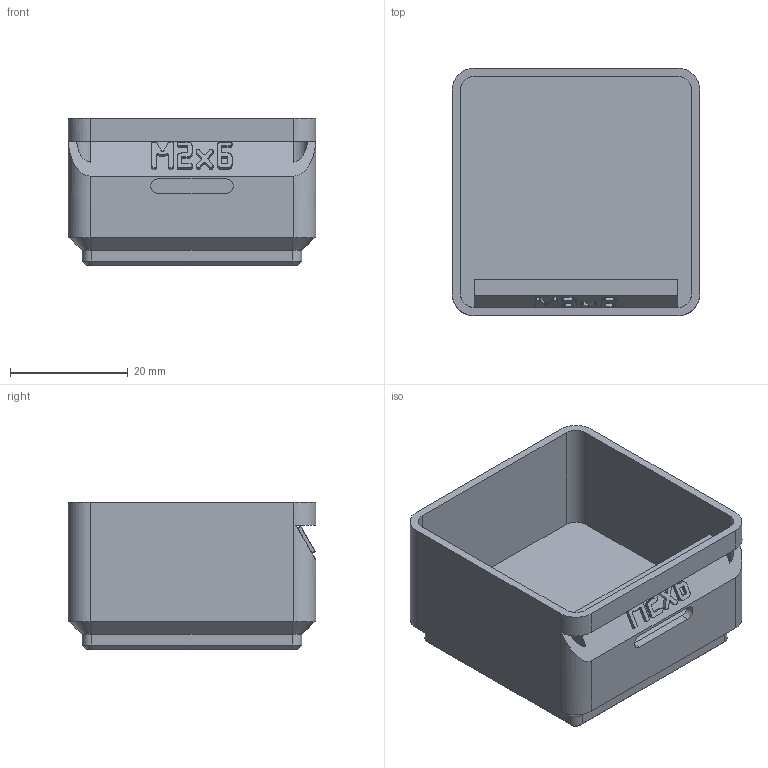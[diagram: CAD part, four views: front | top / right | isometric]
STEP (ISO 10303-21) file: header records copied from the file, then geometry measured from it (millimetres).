
FILE_DESCRIPTION(('Open CASCADE Model'),'2;1');
FILE_NAME('Open CASCADE Shape Model','2026-11-03T17:13:43',('Author'),( 'Open CASCADE'),'Open CASCADE STEP processor 8.0','build123d', 'Unknown');
FILE_SCHEMA(('AUTOMOTIVE_DESIGN { 1 0 10303 214 1 1 1 1 }'));
Length unit declared in the file: millimetre
Products named in the file (1): COMPOUND
Bounding box: 42 x 42 x 25 mm (x, y, z)
Volume: 13723.1 mm3; surface area: 10532.1 mm2
Topology: 1 solids, 1 shells, 475 faces, 1386 edges, 918 vertices
Faces by surface type: plane 453, cylinder 14, cone 8
Entity records: 32552 total; most frequent: CARTESIAN_POINT 6564, DIRECTION 4210, LINE 3142, VECTOR 3142, ORIENTED_EDGE 2772, PCURVE 2772, DEFINITIONAL_REPRESENTATION 2772, EDGE_CURVE 1386
